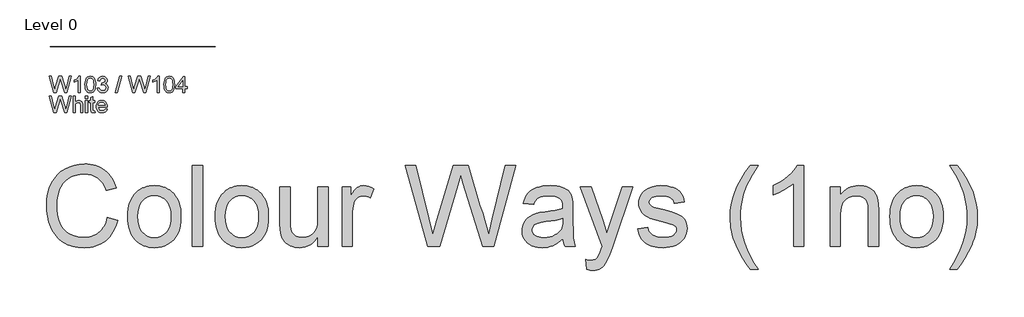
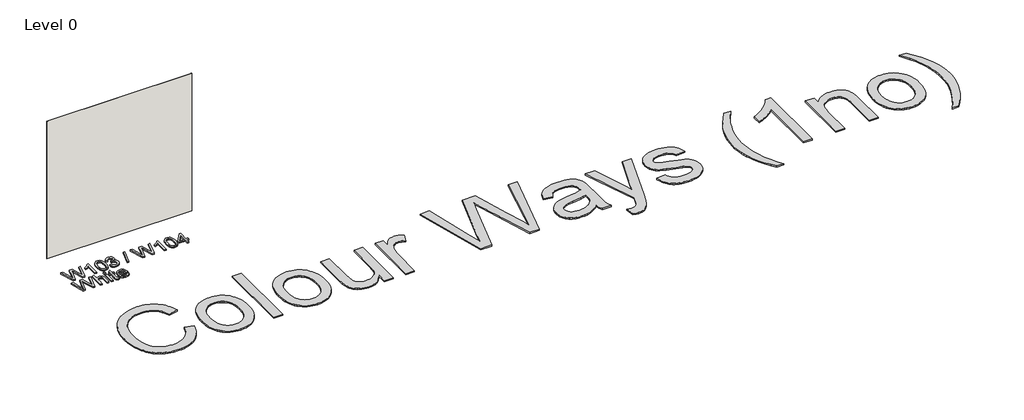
# One storey, part 1 of 6: 2 proxies, 1 wall.
"""IFC4 building model written with IfcOpenShell, lengths in millimetres."""

from ifc_helpers import new_model, si_unit, origin, origin_with_axes, place, context, project, spatial, polyline, outline, extrude, element, save

model = new_model("IFC4")

# Units and contexts
model_context = context("Model", 3, world=origin())
ifc_project = project(units=[si_unit("LENGTHUNIT", "METRE", prefix="MILLI")], contexts=[model_context])

# Site, building, storey
site = spatial("IfcSite", under=ifc_project)
building = spatial("IfcBuilding", under=site)
storey = spatial("IfcBuildingStorey", under=building, Name="Level 0", Elevation=0.0)

# Proxies
placement = place(None, origin())
element("IfcBuildingElementProxy", 1, Name="100mm Arial", ObjectType="100mm Arial", at=placement, inside=storey, context=model_context, shape_type="SweptSolid", body=[
    extrude(outline(polyline([(-85490.2134761, 93124.9975086), (-85570.7663607, 93420.382124), (-85532.6894376, 93420.382124), (-85485.9586684, 93226.2475086), (-85471.5355915, 93166.319624), (-85456.1028992, 93219.3244317), (-85397.5452068, 93420.382124), (-85342.6653992, 93420.382124), (-85300.1173222, 93274.6369317), (-85281.8901588, 93220.5503932), (-85268.4586684, 93166.319624), (-85254.4682838, 93224.5167394), (-85207.3048222, 93420.382124), (-85169.2278992, 93420.382124), (-85249.8528992, 93124.9975086), (-85289.3000145, 93124.9975086), (-85360.1173222, 93352.882124), (-85369.9971299, 93384.6850086), (-85381.1028992, 93346.3917394), (-85445.6461684, 93124.9975086), (-85490.2134761, 93124.9975086)])), origin_with_axes(), (0.0, 0.0, 1.0), 25.0),
    extrude(outline(polyline([(-85007.6894376, 93124.9975086), (-85044.6125145, 93124.9975086), (-85044.6125145, 93355.1898163), (-85079.5884761, 93330.2739509), (-85118.4586684, 93311.632124), (-85118.4586684, 93346.5359702), (-85089.4592693, 93362.3112105), (-85064.3360722, 93381.0792394), (-85044.5313847, 93401.0371721), (-85031.4875145, 93420.382124), (-85007.6894376, 93420.382124), (-85007.6894376, 93124.9975086)])), origin_with_axes(), (0.0, 0.0, 1.0), 25.0),
    extrude(outline(polyline([(-84919.9971299, 93270.3100086), (-84917.2837886, 93317.5906577), (-84909.1437645, 93355.2979894), (-84895.6581876, 93384.0089269), (-84876.9081876, 93404.3003932), (-84852.7585482, 93416.3616913), (-84823.074053, 93420.382124), (-84800.3216492, 93418.0023163), (-84779.949053, 93410.8628932), (-84762.9117934, 93399.2433019), (-84750.1653992, 93383.4229894), (-84740.5379953, 93363.5371721), (-84732.8577068, 93339.7210663), (-84727.8276588, 93309.4776769), (-84726.1509761, 93270.3100086), (-84728.8372742, 93223.2997923), (-84736.8961684, 93185.6826048), (-84750.3006155, 93156.944624), (-84769.0235722, 93136.5720278), (-84793.2272982, 93124.4296), (-84823.074053, 93120.382124), (-84843.4105915, 93122.1399365), (-84861.4394376, 93127.413374), (-84877.1605915, 93136.2024365), (-84890.574053, 93148.507124), (-84903.4466492, 93170.7502129), (-84912.6413607, 93198.4650567), (-84918.1581876, 93231.6516553), (-84919.9971299, 93270.3100086)]), holes=[polyline([(-84883.074053, 93270.382124), (-84878.7471299, 93212.3021961), (-84873.3384761, 93192.4366613), (-84865.7663607, 93178.6874125), (-84846.4394376, 93162.6507538), (-84823.074053, 93157.3052009), (-84799.7086684, 93162.6687827), (-84780.3817453, 93178.7595278), (-84772.8096299, 93192.5313127), (-84767.4009761, 93212.3923403), (-84763.074053, 93270.382124), (-84767.2567453, 93327.1549605), (-84772.4851107, 93346.9551408), (-84779.8048222, 93361.0311625), (-84799.0956876, 93377.8520759), (-84823.5067453, 93383.4590471), (-84846.6197261, 93378.5191432), (-84865.1894376, 93363.6994317), (-84873.0139568, 93348.3749125), (-84878.6028992, 93327.7138548), (-84883.074053, 93270.382124)])]), origin_with_axes(), (0.0, 0.0, 1.0), 25.0),
    extrude(outline(polyline([(-84693.8432838, 93203.4590471), (-84656.9202068, 93208.0744317), (-84648.6539809, 93184.8713067), (-84636.5476107, 93169.2042394), (-84620.0061443, 93160.2799605), (-84598.4346299, 93157.3052009), (-84573.1221299, 93161.397749), (-84553.5788607, 93173.6753932), (-84541.0848703, 93191.9927009), (-84536.9202068, 93214.2042394), (-84541.0488126, 93235.288975), (-84553.4346299, 93252.3893355), (-84572.1846299, 93263.7204653), (-84595.4057838, 93267.4975086), (-84621.2952068, 93263.4590471), (-84617.1846299, 93300.382124), (-84611.2711684, 93299.9494317), (-84589.1497742, 93302.5996721), (-84569.3721299, 93310.5503932), (-84555.417803, 93323.9999125), (-84550.7663607, 93343.1465471), (-84554.1377549, 93359.0930615), (-84564.2519376, 93372.0287586), (-84579.6846299, 93380.601475), (-84599.011553, 93383.4590471), (-84618.3745338, 93380.5744317), (-84634.2038607, 93371.9205855), (-84645.7603511, 93357.4975086), (-84652.3048222, 93337.3052009), (-84689.2278992, 93341.9205855), (-84678.3565049, 93375.0756336), (-84659.011553, 93399.8292394), (-84632.5452068, 93415.2439028), (-84600.3096299, 93420.382124), (-84577.0974905, 93417.8490711), (-84555.7783799, 93410.2499125), (-84537.8036203, 93398.2607298), (-84524.6245338, 93382.5576048), (-84516.5385963, 93364.4656577), (-84513.8432838, 93345.3100086), (-84516.4033799, 93327.4614509), (-84524.0836684, 93311.2715471), (-84536.7759761, 93297.4794798), (-84554.3721299, 93286.8244317), (-84531.2591492, 93277.4854894), (-84514.1317453, 93261.5840471), (-84503.5307838, 93239.9854894), (-84499.9971299, 93213.5552009), (-84501.7639568, 93194.8232298), (-84507.0644376, 93177.569624), (-84515.8985722, 93161.7943836), (-84528.2663607, 93147.4975086), (-84543.3339689, 93135.6345278), (-84560.2675626, 93127.1609702), (-84579.0671419, 93122.0768355), (-84599.7327068, 93120.382124), (-84635.4298222, 93126.1693836), (-84650.7903992, 93133.4034581), (-84664.4923222, 93143.5311625), (-84675.9812044, 93155.9575447), (-84684.7026588, 93170.0876528), (-84693.8432838, 93203.4590471)])), origin_with_axes(), (0.0, 0.0, 1.0), 25.0),
    extrude(outline(polyline([(-84370.7663607, 93124.9975086), (-84287.6894376, 93420.382124), (-84254.3721299, 93420.382124), (-84337.449053, 93124.9975086), (-84370.7663607, 93124.9975086)])), origin_with_axes(), (0.0, 0.0, 1.0), 25.0),
    extrude(outline(polyline([(-84054.8288607, 93124.9975086), (-84135.3817453, 93420.382124), (-84097.3048222, 93420.382124), (-84050.574053, 93226.2475086), (-84036.1509761, 93166.319624), (-84020.7182838, 93219.3244317), (-83962.1605915, 93420.382124), (-83907.2807838, 93420.382124), (-83864.7327068, 93274.6369317), (-83846.5055434, 93220.5503932), (-83833.074053, 93166.319624), (-83819.0836684, 93224.5167394), (-83771.9202068, 93420.382124), (-83733.8432838, 93420.382124), (-83814.4682838, 93124.9975086), (-83853.9153992, 93124.9975086), (-83924.7327068, 93352.882124), (-83934.6125145, 93384.6850086), (-83945.7182838, 93346.3917394), (-84010.261553, 93124.9975086), (-84054.8288607, 93124.9975086)])), origin_with_axes(), (0.0, 0.0, 1.0), 25.0),
    extrude(outline(polyline([(-83572.3048222, 93124.9975086), (-83609.2278992, 93124.9975086), (-83609.2278992, 93355.1898163), (-83644.2038607, 93330.2739509), (-83683.074053, 93311.632124), (-83683.074053, 93346.5359702), (-83654.074654, 93362.3112105), (-83628.9514568, 93381.0792394), (-83609.1467693, 93401.0371721), (-83596.1028992, 93420.382124), (-83572.3048222, 93420.382124), (-83572.3048222, 93124.9975086)])), origin_with_axes(), (0.0, 0.0, 1.0), 25.0),
    extrude(outline(polyline([(-83484.6125145, 93270.3100086), (-83481.8991732, 93317.5906577), (-83473.7591492, 93355.2979894), (-83460.2735722, 93384.0089269), (-83441.5235722, 93404.3003932), (-83417.3739328, 93416.3616913), (-83387.6894376, 93420.382124), (-83364.9370338, 93418.0023163), (-83344.5644376, 93410.8628932), (-83327.527178, 93399.2433019), (-83314.7807838, 93383.4229894), (-83305.1533799, 93363.5371721), (-83297.4730915, 93339.7210663), (-83292.4430434, 93309.4776769), (-83290.7663607, 93270.3100086), (-83293.4526588, 93223.2997923), (-83301.511553, 93185.6826048), (-83314.9160001, 93156.944624), (-83333.6389568, 93136.5720278), (-83357.8426828, 93124.4296), (-83387.6894376, 93120.382124), (-83408.0259761, 93122.1399365), (-83426.0548222, 93127.413374), (-83441.7759761, 93136.2024365), (-83455.1894376, 93148.507124), (-83468.0620338, 93170.7502129), (-83477.2567453, 93198.4650567), (-83482.7735722, 93231.6516553), (-83484.6125145, 93270.3100086)]), holes=[polyline([(-83447.6894376, 93270.382124), (-83443.3625145, 93212.3021961), (-83437.9538607, 93192.4366613), (-83430.3817453, 93178.6874125), (-83411.0548222, 93162.6507538), (-83387.6894376, 93157.3052009), (-83364.324053, 93162.6687827), (-83344.9971299, 93178.7595278), (-83337.4250145, 93192.5313127), (-83332.0163607, 93212.3923403), (-83327.6894376, 93270.382124), (-83331.8721299, 93327.1549605), (-83337.1004953, 93346.9551408), (-83344.4202068, 93361.0311625), (-83363.7110722, 93377.8520759), (-83388.1221299, 93383.4590471), (-83411.2351107, 93378.5191432), (-83429.8048222, 93363.6994317), (-83437.6293415, 93348.3749125), (-83443.2182838, 93327.7138548), (-83447.6894376, 93270.382124)])]), origin_with_axes(), (0.0, 0.0, 1.0), 25.0),
    extrude(outline(polyline([(-83138.4586684, 93124.9975086), (-83138.4586684, 93194.2282778), (-83272.3048222, 93194.2282778), (-83272.3048222, 93231.1513548), (-83129.2278992, 93415.7667394), (-83101.5355915, 93415.7667394), (-83101.5355915, 93231.1513548), (-83064.6125145, 93231.1513548), (-83064.6125145, 93194.2282778), (-83101.5355915, 93194.2282778), (-83101.5355915, 93124.9975086), (-83138.4586684, 93124.9975086)]), holes=[polyline([(-83138.4586684, 93231.1513548), (-83138.4586684, 93345.2378932), (-83226.8721299, 93231.1513548), (-83138.4586684, 93231.1513548)])]), origin_with_axes(), (0.0, 0.0, 1.0), 25.0),
    extrude(outline(polyline([(-85490.2134761, 92760.382124), (-85570.7663607, 93055.7667394), (-85532.6894376, 93055.7667394), (-85485.9586684, 92861.632124), (-85471.5355915, 92801.7042394), (-85456.1028992, 92854.7090471), (-85397.5452068, 93055.7667394), (-85342.6653992, 93055.7667394), (-85300.1173222, 92910.0215471), (-85281.8901588, 92855.9350086), (-85268.4586684, 92801.7042394), (-85254.4682838, 92859.9013548), (-85207.3048222, 93055.7667394), (-85169.2278992, 93055.7667394), (-85249.8528992, 92760.382124), (-85289.3000145, 92760.382124), (-85360.1173222, 92988.2667394), (-85369.9971299, 93020.069624), (-85381.1028992, 92981.7763548), (-85445.6461684, 92760.382124), (-85490.2134761, 92760.382124)])), origin_with_axes(), (0.0, 0.0, 1.0), 25.0),
    extrude(outline(polyline([(-85136.9202068, 92760.382124), (-85136.9202068, 93055.7667394), (-85099.9971299, 93055.7667394), (-85099.9971299, 92947.1609702), (-85086.4349304, 92962.3683019), (-85071.2050626, 92973.2306817), (-85054.3075266, 92979.7481096), (-85035.7423222, 92981.9205855), (-85013.4406395, 92979.5497923), (-84994.2759761, 92972.4374125), (-84979.1858318, 92961.1423403), (-84969.1077068, 92946.2234702), (-84963.4286203, 92925.7246721), (-84961.5355915, 92897.6898163), (-84961.5355915, 92760.382124), (-84998.4586684, 92760.382124), (-84998.4586684, 92893.8677009), (-85001.3973703, 92916.9806817), (-85010.2134761, 92932.8100086), (-85024.4202068, 92941.9506336), (-85043.5307838, 92944.9975086), (-85059.1347501, 92942.9422202), (-85073.7831876, 92936.7763548), (-85085.9166011, 92927.0948644), (-85093.9754953, 92914.4927009), (-85098.4917213, 92897.7439028), (-85099.9971299, 92875.6225086), (-85099.9971299, 92760.382124), (-85136.9202068, 92760.382124)])), origin_with_axes(), (0.0, 0.0, 1.0), 25.0),
    extrude(outline(polyline([(-84910.7663607, 92760.382124), (-84910.7663607, 92977.3052009), (-84873.8432838, 92977.3052009), (-84873.8432838, 92760.382124), (-84910.7663607, 92760.382124)])), origin_with_axes(), (0.0, 0.0, 1.0), 25.0),
    extrude(outline(polyline([(-84910.7663607, 93018.8436625), (-84910.7663607, 93055.7667394), (-84873.8432838, 93055.7667394), (-84873.8432838, 93018.8436625), (-84910.7663607, 93018.8436625)])), origin_with_axes(), (0.0, 0.0, 1.0), 25.0),
    extrude(outline(polyline([(-84739.9971299, 92791.1753932), (-84735.3817453, 92759.3003932), (-84763.0019376, 92755.7667394), (-84780.7242934, 92757.2991913), (-84793.9394376, 92761.8965471), (-84803.2783799, 92768.9818836), (-84809.3721299, 92777.9782778), (-84812.7254953, 92793.428999), (-84813.8432838, 92819.8773163), (-84813.8432838, 92940.382124), (-84841.5355915, 92940.382124), (-84841.5355915, 92977.3052009), (-84813.8432838, 92977.3052009), (-84813.8432838, 93030.0215471), (-84776.9202068, 93051.7282778), (-84776.9202068, 92977.3052009), (-84739.9971299, 92977.3052009), (-84739.9971299, 92940.382124), (-84776.9202068, 92940.382124), (-84776.9202068, 92820.9590471), (-84774.9730915, 92801.9205855), (-84768.6629953, 92795.1777971), (-84756.0788607, 92792.6898163), (-84739.9971299, 92791.1753932)])), origin_with_axes(), (0.0, 0.0, 1.0), 25.0),
    extrude(outline(polyline([(-84551.199053, 92824.9975086), (-84514.9971299, 92820.382124), (-84528.0410001, 92793.1044798), (-84548.855303, 92772.7138548), (-84576.9712886, 92760.0035182), (-84611.9202068, 92755.7667394), (-84634.8303631, 92757.5944137), (-84655.2435242, 92763.0774365), (-84673.15969, 92772.2158079), (-84688.5788607, 92785.0095278), (-84700.9781996, 92801.1025266), (-84709.8348703, 92820.1387346), (-84715.1488727, 92842.1181516), (-84716.9202068, 92867.0407778), (-84715.1308439, 92892.8085062), (-84709.7627549, 92915.5203452), (-84700.81594, 92935.1762947), (-84688.2903992, 92951.7763548), (-84672.9117934, 92964.9644557), (-84655.4057838, 92974.3845278), (-84635.7723703, 92980.0365711), (-84614.011553, 92981.9205855), (-84592.9516071, 92980.0410783), (-84573.9063847, 92974.4025567), (-84556.8758859, 92965.0050206), (-84541.8601107, 92951.8484702), (-84529.6027489, 92935.2844678), (-84520.8474905, 92915.6645759), (-84515.5943355, 92892.9887947), (-84513.8432838, 92867.257124), (-84514.0596299, 92857.3052009), (-84679.9971299, 92857.3052009), (-84673.605904, 92829.6669798), (-84658.7591492, 92809.3484702), (-84637.3318655, 92796.8544798), (-84611.199053, 92792.6898163), (-84591.5476107, 92794.6189028), (-84574.9971299, 92800.4061625), (-84561.5476107, 92810.4121721), (-84551.199053, 92824.9975086)]), holes=[polyline([(-84679.9971299, 92894.2282778), (-84550.7663607, 92894.2282778), (-84555.7603511, 92913.7354894), (-84565.5500145, 92927.6898163), (-84587.0764568, 92940.6705855), (-84614.1557838, 92944.9975086), (-84639.0446059, 92941.5449846), (-84659.6245338, 92931.1874125), (-84673.9304232, 92915.0425807), (-84679.9971299, 92894.2282778)])]), origin_with_axes(), (0.0, 0.0, 1.0), 25.0),
])
element("IfcBuildingElementProxy", 2, Name="600mm Arial", ObjectType="600mm Arial", at=placement, inside=storey, context=model_context, shape_type="SweptSolid", body=[
    extrude(outline(polyline([(-84511.637695, 90847.6341991), (-84327.1600831, 90800.0735647), (-84343.897508, 90740.9014474), (-84363.6637707, 90685.3492979), (-84386.4588711, 90633.4171162), (-84412.2828093, 90585.1049022), (-84441.1355852, 90540.412656), (-84473.0171989, 90499.3403777), (-84507.9276503, 90461.8880671), (-84545.8669394, 90428.0557243), (-84586.4240902, 90398.0347628), (-84629.1881265, 90372.0165962), (-84674.1590482, 90350.0012244), (-84721.3368555, 90331.9886475), (-84770.7215482, 90317.9788655), (-84822.3131265, 90307.9718784), (-84876.1115902, 90301.9676861), (-84932.1169394, 90299.9662886), (-85044.6118015, 90306.0239641), (-85096.729767, 90313.5960585), (-85146.0947554, 90324.1969906), (-85192.7067668, 90337.8267604), (-85236.5658011, 90354.485368), (-85277.6718583, 90374.1728134), (-85316.0249385, 90396.8890965), (-85351.8980874, 90422.4765826), (-85385.5643508, 90450.7776372), (-85417.0237287, 90481.7922601), (-85446.2762211, 90515.5204514), (-85473.3218281, 90551.9622111), (-85498.1605495, 90591.1175392), (-85520.7923854, 90632.9864357), (-85541.2173359, 90677.5689006), (-85575.0299743, 90771.1363417), (-85599.181859, 90868.0816688), (-85613.6729897, 90968.4048818), (-85618.5033667, 91072.1059808), (-85613.042451, 91183.3735443), (-85596.6597041, 91287.2998357), (-85569.3551259, 91383.884855), (-85551.6071501, 91429.4243875), (-85531.1287165, 91473.1286021), (-85508.1337578, 91514.628746), (-85482.8362068, 91553.5560668), (-85455.2360636, 91589.9105644), (-85425.3333282, 91623.692239), (-85393.1280004, 91654.9010903), (-85358.6200805, 91683.5371186), (-85321.8095682, 91709.6003236), (-85282.6964637, 91733.0907056), (-85200.1409308, 91771.9476538), (-85113.5319348, 91799.7026167), (-85022.8694756, 91816.3555945), (-84928.1535532, 91821.9065871), (-84874.3016063, 91820.1106778), (-84822.6396554, 91814.7229497), (-84773.1677006, 91805.7434028), (-84725.8857419, 91793.1720372), (-84680.7937792, 91777.0088529), (-84637.8918126, 91757.2538498), (-84597.1798421, 91733.907028), (-84558.6578676, 91706.9683875), (-84522.6524182, 91676.770087), (-84489.4900227, 91643.6442854), (-84459.1706813, 91607.5909825), (-84431.6943939, 91568.6101785), (-84407.0611606, 91526.7018734), (-84385.2709812, 91481.8660671), (-84366.3238559, 91434.1027596), (-84350.2197846, 91383.4119509), (-84534.6973965, 91339.454395), (-84563.7472158, 91412.0001258), (-84598.6520374, 91473.9843332), (-84639.4118613, 91525.4070171), (-84686.0266876, 91566.2681776), (-84738.766747, 91597.4010266), (-84797.9022706, 91619.6387758), (-84863.4332582, 91632.9814253), (-84935.3597099, 91637.4289752), (-85018.117916, 91632.4972617), (-85093.8050807, 91617.7021212), (-85162.4212042, 91593.0435537), (-85223.9662864, 91558.5215591), (-85277.6634136, 91515.6899652), (-85322.7356719, 91466.1025993), (-85359.1830614, 91409.7594614), (-85387.0055821, 91346.6605517), (-85407.5769076, 91279.6658135), (-85422.2707116, 91211.6351902), (-85431.0869939, 91142.5686819), (-85434.0257547, 91072.4662886), (-85430.5465322, 90984.3710228), (-85420.1088646, 90902.0406823), (-85402.7127519, 90825.4752672), (-85378.3581941, 90754.6747774), (-85346.6511045, 90691.0466655), (-85307.1973965, 90635.998384), (-85259.99707, 90589.5299328), (-85205.0501251, 90551.6413119), (-85145.0250915, 90522.2424445), (-85082.5904994, 90501.2432534), (-85017.7463485, 90488.6437388), (-84950.492639, 90484.4439006), (-84870.2903667, 90490.1637875), (-84796.5060777, 90507.3234481), (-84762.020677, 90520.1931936), (-84729.139772, 90535.9228826), (-84697.8633629, 90554.512515), (-84668.1914497, 90575.9620909), (-84640.4843401, 90600.2265717), (-84615.102342, 90627.260919), (-84592.0454554, 90657.0651328), (-84571.3136803, 90689.6392131), (-84552.9070167, 90724.9831598), (-84536.8254647, 90763.0969731), (-84511.637695, 90847.6341991)])), origin_with_axes(), (0.0, 0.0, 1.0), 25.0),
    extrude(outline(polyline([(-84142.6824711, 90864.9289752), (-84140.1884653, 90937.5366339), (-84132.7064479, 91005.2913965), (-84120.2364189, 91068.1932629), (-84102.7783783, 91126.2422331), (-84080.3323261, 91179.4383072), (-84052.8982623, 91227.7814851), (-84020.4761869, 91271.2717668), (-83983.0660999, 91309.9091524), (-83948.8255958, 91338.0300531), (-83912.7610334, 91362.4015003), (-83874.8724125, 91383.0234941), (-83835.1597333, 91399.8960344), (-83793.6229956, 91413.0191214), (-83750.2621994, 91422.3927549), (-83705.0773449, 91428.016935), (-83658.068432, 91429.8916618), (-83605.9617261, 91427.6087738), (-83556.292728, 91420.76011), (-83509.0614375, 91409.3456704), (-83464.2678548, 91393.3654549), (-83421.9119797, 91372.8194635), (-83381.9938124, 91347.7076963), (-83344.5133527, 91318.0301533), (-83309.4706008, 91283.7868343), (-83277.7606963, 91245.5182013), (-83250.2787791, 91203.7647159), (-83227.0248492, 91158.5263782), (-83207.9989065, 91109.8031881), (-83193.2009511, 91057.5951457), (-83182.630983, 91001.9022509), (-83176.2890021, 90942.7245038), (-83174.1750084, 90880.0619043), (-83177.9132022, 90781.315038), (-83189.1277836, 90693.6926762), (-83207.8187526, 90617.1948188), (-83233.9861092, 90551.8214659), (-83267.3033244, 90495.3544722), (-83307.4438692, 90445.5756928), (-83354.4077437, 90402.4851275), (-83408.1949478, 90366.0827765), (-83466.7111923, 90337.1568131), (-83527.8621878, 90316.4954106), (-83591.6479343, 90304.0985691), (-83658.068432, 90299.9662886), (-83710.9970901, 90302.2407318), (-83761.3304058, 90309.0640615), (-83809.0683791, 90320.4362775), (-83854.2110101, 90336.35738), (-83896.7582987, 90356.827369), (-83936.7102449, 90381.8462443), (-83974.0668487, 90411.4140061), (-84008.8281101, 90445.5306543), (-84040.200226, 90483.925958), (-84067.3893931, 90526.3296865), (-84090.3956114, 90572.7418396), (-84109.2188809, 90623.1624174), (-84123.8592016, 90677.5914198), (-84134.3165736, 90736.0288469), (-84140.5909967, 90798.4746987), (-84142.6824711, 90864.9289752)]), holes=[polyline([(-83958.2048592, 90865.289283), (-83952.8677994, 90775.8090839), (-83946.1964746, 90735.5700174), (-83936.8566199, 90698.3316396), (-83924.8482353, 90664.0939505), (-83910.1713208, 90632.8569501), (-83892.8258764, 90604.6206383), (-83872.8119021, 90579.3850153), (-83827.3680763, 90537.8482776), (-83802.585653, 90521.5302735), (-83776.429556, 90508.1791792), (-83748.8997854, 90497.7949948), (-83719.9963412, 90490.3777202), (-83658.068432, 90484.4439006), (-83596.455792, 90490.4114991), (-83567.6762036, 90497.8709973), (-83540.2477696, 90508.3142947), (-83514.17049, 90521.7413914), (-83489.4443648, 90538.1522873), (-83444.0455775, 90579.9254771), (-83424.0316032, 90605.3609583), (-83406.6861588, 90633.926614), (-83392.0092443, 90665.6224439), (-83380.0008597, 90700.4484481), (-83370.661005, 90738.4046267), (-83363.9896802, 90779.4909796), (-83358.6526204, 90871.0542084), (-83364.0234591, 90957.6969833), (-83370.7370074, 90996.8213474), (-83380.1359751, 91033.147696), (-83392.2203621, 91066.6760291), (-83406.9901685, 91097.4063466), (-83424.4453942, 91125.3386486), (-83444.5860392, 91150.4729351), (-83490.1537208, 91192.0096728), (-83514.8882908, 91208.3276769), (-83540.9233468, 91221.6787711), (-83568.258889, 91232.0629556), (-83596.8949172, 91239.4802301), (-83658.068432, 91245.4140498), (-83719.9963412, 91239.5027494), (-83748.8997854, 91232.1136238), (-83776.429556, 91221.7688481), (-83802.585653, 91208.4684221), (-83827.3680763, 91192.2123459), (-83872.8119021, 91150.8332429), (-83892.8258764, 91125.682067), (-83910.1713208, 91097.5189428), (-83924.8482353, 91066.3438703), (-83936.8566199, 91032.1568495), (-83946.1964746, 90994.9578803), (-83952.8677994, 90954.7469629), (-83958.2048592, 90865.289283)])]), origin_with_axes(), (0.0, 0.0, 1.0), 25.0),
    extrude(outline(polyline([(-82966.637695, 90323.0259901), (-82966.637695, 91798.8468856), (-82782.1600831, 91798.8468856), (-82782.1600831, 90323.0259901), (-82966.637695, 90323.0259901)])), origin_with_axes(), (0.0, 0.0, 1.0), 25.0),
    extrude(outline(polyline([(-82551.5630681, 90864.9289752), (-82549.0690623, 90937.5366339), (-82541.5870449, 91005.2913965), (-82529.1170159, 91068.1932629), (-82511.6589753, 91126.2422331), (-82489.2129231, 91179.4383072), (-82461.7788593, 91227.7814851), (-82429.3567839, 91271.2717668), (-82391.9466969, 91309.9091524), (-82357.7061929, 91338.0300531), (-82321.6416304, 91362.4015003), (-82283.7530096, 91383.0234941), (-82244.0403303, 91399.8960344), (-82202.5035926, 91413.0191214), (-82159.1427965, 91422.3927549), (-82113.9579419, 91428.016935), (-82066.949029, 91429.8916618), (-82014.8423231, 91427.6087738), (-81965.173325, 91420.76011), (-81917.9420345, 91409.3456704), (-81873.1484518, 91393.3654549), (-81830.7925767, 91372.8194635), (-81790.8744094, 91347.7076963), (-81753.3939498, 91318.0301533), (-81718.3511978, 91283.7868343), (-81686.6412934, 91245.5182013), (-81659.1593762, 91203.7647159), (-81635.9054462, 91158.5263782), (-81616.8795035, 91109.8031881), (-81602.0815481, 91057.5951457), (-81591.51158, 91001.9022509), (-81585.1695991, 90942.7245038), (-81583.0556055, 90880.0619043), (-81586.7937993, 90781.315038), (-81598.0083806, 90693.6926762), (-81616.6993496, 90617.1948188), (-81642.8667062, 90551.8214659), (-81676.1839214, 90495.3544722), (-81716.3244662, 90445.5756928), (-81763.2883407, 90402.4851275), (-81817.0755448, 90366.0827765), (-81875.5917893, 90337.1568131), (-81936.7427848, 90316.4954106), (-82000.5285314, 90304.0985691), (-82066.949029, 90299.9662886), (-82119.8776871, 90302.2407318), (-82170.2110028, 90309.0640615), (-82217.9489761, 90320.4362775), (-82263.0916071, 90336.35738), (-82305.6388957, 90356.827369), (-82345.5908419, 90381.8462443), (-82382.9474457, 90411.4140061), (-82417.7087071, 90445.5306543), (-82449.080823, 90483.925958), (-82476.2699901, 90526.3296865), (-82499.2762084, 90572.7418396), (-82518.0994779, 90623.1624174), (-82532.7397986, 90677.5914198), (-82543.1971706, 90736.0288469), (-82549.4715938, 90798.4746987), (-82551.5630681, 90864.9289752)]), holes=[polyline([(-82367.0854562, 90865.289283), (-82361.7483964, 90775.8090839), (-82355.0770716, 90735.5700174), (-82345.7372169, 90698.3316396), (-82333.7288323, 90664.0939505), (-82319.0519178, 90632.8569501), (-82301.7064734, 90604.6206383), (-82281.6924991, 90579.3850153), (-82236.2486733, 90537.8482776), (-82211.46625, 90521.5302735), (-82185.310153, 90508.1791792), (-82157.7803825, 90497.7949948), (-82128.8769383, 90490.3777202), (-82066.949029, 90484.4439006), (-82005.336389, 90490.4114991), (-81976.5568007, 90497.8709973), (-81949.1283667, 90508.3142947), (-81923.051087, 90521.7413914), (-81898.3249618, 90538.1522873), (-81852.9261745, 90579.9254771), (-81832.9122002, 90605.3609583), (-81815.5667558, 90633.926614), (-81800.8898413, 90665.6224439), (-81788.8814567, 90700.4484481), (-81779.541602, 90738.4046267), (-81772.8702772, 90779.4909796), (-81767.5332174, 90871.0542084), (-81772.9040561, 90957.6969833), (-81779.6176044, 90996.8213474), (-81789.0165721, 91033.147696), (-81801.1009591, 91066.6760291), (-81815.8707655, 91097.4063466), (-81833.3259912, 91125.3386486), (-81853.4666362, 91150.4729351), (-81899.0343179, 91192.0096728), (-81923.7688878, 91208.3276769), (-81949.8039438, 91221.6787711), (-81977.139486, 91232.0629556), (-82005.7755142, 91239.4802301), (-82066.949029, 91245.4140498), (-82128.8769383, 91239.5027494), (-82157.7803825, 91232.1136238), (-82185.310153, 91221.7688481), (-82211.46625, 91208.4684221), (-82236.2486733, 91192.2123459), (-82281.6924991, 91150.8332429), (-82301.7064734, 91125.682067), (-82319.0519178, 91097.5189428), (-82333.7288323, 91066.3438703), (-82345.7372169, 91032.1568495), (-82355.0770716, 90994.9578803), (-82361.7483964, 90954.7469629), (-82367.0854562, 90865.289283)])]), origin_with_axes(), (0.0, 0.0, 1.0), 25.0),
    extrude(outline(polyline([(-80683.7272473, 90323.0259901), (-80683.7272473, 90509.3051412), (-80715.7270869, 90460.2413477), (-80750.4742738, 90417.7193932), (-80787.968808, 90381.7392779), (-80828.2106894, 90352.3010018), (-80871.1999181, 90329.4045648), (-80916.936494, 90313.0499669), (-80965.4204171, 90303.2372082), (-81016.6516876, 90299.9662886), (-81062.3544846, 90302.2632511), (-81106.5034541, 90309.1541384), (-81149.0985961, 90320.6389507), (-81190.1399105, 90336.7176879), (-81227.8145986, 90356.264388), (-81260.3098615, 90378.153089), (-81287.6256993, 90402.383791), (-81309.762112, 90428.9564938), (-81327.8563211, 90458.2540247), (-81343.0455483, 90490.6592107), (-81355.3297936, 90526.1720518), (-81364.709057, 90564.792548), (-81372.8159833, 90634.6922681), (-81375.518292, 90736.2990778), (-81375.518292, 91406.8319603), (-81191.0406801, 91406.8319603), (-81191.0406801, 90823.1332662), (-81188.2482944, 90706.3935274), (-81179.8711372, 90635.0525759), (-81168.8254501, 90601.8029185), (-81152.9831649, 90572.313974), (-81132.3442817, 90546.5857426), (-81106.9088004, 90524.6182243), (-81077.4423752, 90507.0419576), (-81044.7106603, 90494.4874815), (-81008.7136555, 90486.9547958), (-80969.4513611, 90484.4439006), (-80929.0180661, 90487.0110939), (-80889.8683678, 90494.7126739), (-80852.0022662, 90507.5486405), (-80815.4197612, 90525.5189938), (-80782.1025461, 90547.9143778), (-80754.0323137, 90574.0254362), (-80731.2090642, 90603.8521693), (-80713.6327976, 90637.3945769), (-80700.5491193, 90676.7919868), (-80691.2036348, 90724.1837268), (-80685.5963442, 90779.569797), (-80683.7272473, 90842.9501972), (-80683.7272473, 91406.8319603), (-80499.2496353, 91406.8319603), (-80499.2496353, 90323.0259901), (-80683.7272473, 90323.0259901)])), origin_with_axes(), (0.0, 0.0, 1.0), 25.0),
    extrude(outline(polyline([(-80245.5929189, 90323.0259901), (-80245.5929189, 91406.8319603), (-80084.1750084, 91406.8319603), (-80084.1750084, 91246.4949733), (-80053.7740348, 91297.748763), (-80024.5440616, 91339.454395), (-79996.4850889, 91371.6118693), (-79969.5971167, 91394.221186), (-79942.6641059, 91409.8270192), (-79914.4700178, 91420.9740428), (-79885.0148522, 91427.662257), (-79854.2986092, 91429.8916618), (-79808.539514, 91426.3336219), (-79762.4201111, 91415.6595022), (-79715.9404002, 91397.8693028), (-79669.1003816, 91372.9630237), (-79730.7130215, 91207.5817271), (-79763.1407267, 91224.1333683), (-79795.568432, 91235.9559691), (-79827.9961372, 91243.0495296), (-79860.4238424, 91245.4140498), (-79888.6967479, 91243.1396066), (-79915.5059028, 91236.316277), (-79940.8513071, 91224.9440609), (-79964.7329609, 91209.0229584), (-79986.2500944, 91189.070912), (-80004.5019383, 91165.6058642), (-80019.4884923, 91138.627815), (-80031.2097566, 91108.1367644), (-80044.2934349, 91057.7837443), (-80053.6389194, 91005.0887233), (-80059.2462101, 90950.0517014), (-80061.115307, 90892.6726785), (-80061.115307, 90323.0259901), (-80245.5929189, 90323.0259901)])), origin_with_axes(), (0.0, 0.0, 1.0), 25.0),
    extrude(outline(polyline([(-78690.1439917, 90323.0259901), (-79092.6078443, 91798.8468856), (-78902.365307, 91798.8468856), (-78668.8858293, 90828.8981916), (-78596.8242622, 90529.48238), (-78519.7183853, 90794.3086394), (-78227.1484226, 91798.8468856), (-77952.9541596, 91798.8468856), (-77740.3725364, 91070.6647494), (-77691.8435748, 90935.639388), (-77649.3047309, 90800.4338726), (-77612.7560048, 90665.0482033), (-77582.1973965, 90529.48238), (-77512.2976764, 90820.2508035), (-77276.6563517, 91798.8468856), (-77086.4138144, 91798.8468856), (-77489.2379749, 90323.0259901), (-77686.3263611, 90323.0259901), (-78040.1486558, 91461.5987513), (-78089.5108293, 91620.4945069), (-78144.9982361, 91429.1710461), (-78467.4737491, 90323.0259901), (-78690.1439917, 90323.0259901)])), origin_with_axes(), (0.0, 0.0, 1.0), 25.0),
    extrude(outline(polyline([(-76233.2048592, 90461.3841991), (-76276.9484824, 90420.331625), (-76321.3451635, 90385.8096305), (-76366.3949026, 90357.8182155), (-76412.0976997, 90336.35738), (-76458.9714972, 90320.4362775), (-76507.5342377, 90309.0640615), (-76557.7859212, 90302.2407318), (-76609.7265476, 90299.9662886), (-76691.8654746, 90305.4384639), (-76729.1432611, 90312.278683), (-76763.8932629, 90321.8549896), (-76796.11548, 90334.167384), (-76825.8099125, 90349.2158659), (-76852.9765604, 90367.0004355), (-76877.6154236, 90387.5210927), (-76899.5294587, 90410.1698181), (-76918.5216225, 90434.3385921), (-76934.591915, 90460.0274149), (-76947.7403361, 90487.2362863), (-76957.9668859, 90515.9652064), (-76965.2715642, 90546.2141752), (-76971.115307, 90611.2722588), (-76968.9084215, 90650.3881782), (-76962.287765, 90687.7475969), (-76951.2533375, 90723.350515), (-76935.805139, 90757.1969323), (-76916.7651218, 90788.543714), (-76894.9552382, 90816.6477252), (-76870.375488, 90841.5089659), (-76843.0258713, 90863.127436), (-76781.9987316, 90898.25745), (-76713.8555122, 90923.6591524), (-76647.4687934, 90937.801235), (-76554.2391409, 90951.4028558), (-76452.7674466, 90965.3647844), (-76365.6179889, 90980.5877905), (-76292.7907675, 90997.071874), (-76234.2857827, 91014.8170349), (-76233.2048592, 91055.8921282), (-76236.380072, 91100.6153383), (-76245.9057104, 91138.2224687), (-76261.7817744, 91168.7135193), (-76284.008264, 91192.0884901), (-76322.426087, 91215.4184225), (-76369.2210672, 91232.0826599), (-76424.3932046, 91242.0812023), (-76487.9424991, 91245.4140498), (-76547.0329842, 91243.1959047), (-76597.836389, 91236.5414694), (-76640.3527137, 91225.4507438), (-76674.5819581, 91209.923728), (-76702.7084885, 91188.744383), (-76726.9166712, 91160.6966699), (-76747.2065062, 91125.7805887), (-76763.5779935, 91083.9961394), (-76948.0556055, 91107.0558409), (-76934.0148595, 91160.2012466), (-76916.0332466, 91207.9420349), (-76894.1107667, 91250.2782056), (-76868.2474198, 91287.2097588), (-76837.3285037, 91319.4798293), (-76800.2393158, 91347.8315521), (-76756.9798563, 91372.2649273), (-76707.5501251, 91392.7799547), (-76652.9522283, 91409.0163265), (-76594.1882722, 91420.613735), (-76531.2582568, 91427.5721801), (-76464.162182, 91429.8916618), (-76398.5748962, 91427.8424109), (-76339.4506323, 91421.6946585), (-76286.7893902, 91411.4484044), (-76240.5911698, 91397.1036487), (-76200.4731442, 91379.6624975), (-76166.0524863, 91360.127057), (-76137.329196, 91338.4973273), (-76114.3032734, 91314.7733082), (-76095.6348236, 91288.3694996), (-76079.983952, 91258.7004013), (-76067.3506585, 91225.7660131), (-76057.7349431, 91189.5663353), (-76050.9791712, 91125.7918483), (-76048.7272473, 91028.1484248), (-76048.7272473, 90798.6323334), (-76046.3852463, 90598.706523), (-76039.3592435, 90478.1385134), (-76025.4873918, 90398.915828), (-76002.6078443, 90323.0259901), (-76187.0854562, 90323.0259901), (-76203.4794627, 90353.8323101), (-76216.6306987, 90387.1607849), (-76226.5391642, 90423.0114146), (-76233.2048592, 90461.3841991)]), holes=[polyline([(-76233.2048592, 90830.339423), (-76288.9624968, 90814.373282), (-76357.1507547, 90799.6231799), (-76530.8191316, 90773.7710927), (-76626.5259005, 90759.6290102), (-76689.5347333, 90743.8655424), (-76730.8350189, 90723.4180727), (-76747.4654775, 90710.2893559), (-76761.4161465, 90695.2239845), (-76780.3323079, 90661.4451249), (-76785.0613482, 90643.2720984), (-76786.637695, 90624.2433409), (-76783.203511, 90595.5763487), (-76772.9009588, 90569.3864729), (-76755.7300385, 90545.6737134), (-76731.6907501, 90524.4380703), (-76701.0082859, 90506.9406211), (-76663.9078384, 90494.442443), (-76620.3894076, 90486.9435362), (-76570.4529935, 90484.4439006), (-76519.4694348, 90487.2025074), (-76471.3683387, 90495.478328), (-76426.1497053, 90509.2713624), (-76383.8135346, 90528.5816105), (-76345.620904, 90551.8102062), (-76312.8328909, 90577.3582837), (-76285.4494954, 90605.2258429), (-76263.4707174, 90635.4128838), (-76250.7023085, 90662.4359715), (-76241.5820164, 90695.2239845), (-76236.1098411, 90733.776923), (-76234.2857827, 90778.0947868), (-76233.2048592, 90830.339423)])]), origin_with_axes(), (0.0, 0.0, 1.0), 25.0),
    extrude(outline(polyline([(-75795.0705308, 89907.9513633), (-75818.1302323, 90085.5831263), (-75767.8672892, 90073.4227369), (-75724.450195, 90069.3692737), (-75675.1780985, 90074.4586219), (-75654.6630711, 90080.8203071), (-75636.8953909, 90089.7266664), (-75607.0799175, 90114.0924838), (-75583.2095234, 90146.4751506), (-75562.8521306, 90194.1258619), (-75532.7664264, 90282.3112047), (-75518.3541129, 90326.9893763), (-75910.3690383, 91406.8319603), (-75715.802807, 91406.8319603), (-75507.9051857, 90805.1178744), (-75469.6224781, 90687.65752), (-75435.4833107, 90564.4322401), (-75363.0614357, 90777.0138633), (-75149.398889, 91406.8319603), (-74956.273889, 91406.8319603), (-75333.5161931, 90297.0838259), (-75389.5440616, 90149.5377672), (-75431.5199245, 90056.3981916), (-75455.7731457, 90015.0303482), (-75481.6927906, 89979.5625456), (-75509.2788593, 89949.9947838), (-75538.5313517, 89926.3270629), (-75570.0808066, 89908.1990749), (-75604.5577626, 89895.250512), (-75641.9622199, 89887.4813743), (-75682.2941782, 89884.8916618), (-75735.7098149, 89890.6565871), (-75795.0705308, 89907.9513633)])), origin_with_axes(), (0.0, 0.0, 1.0), 25.0),
    extrude(outline(polyline([(-74872.6824711, 90645.861811), (-74688.2048592, 90668.9215125), (-74677.0578355, 90626.8555727), (-74659.1100015, 90590.0140965), (-74634.361357, 90558.3970839), (-74602.8119021, 90532.0045349), (-74564.3715599, 90511.1967574), (-74518.9502533, 90496.3340591), (-74466.5479824, 90487.4164402), (-74407.1647473, 90484.4439006), (-74347.8490698, 90487.1687286), (-74296.7303956, 90495.3432126), (-74253.8087246, 90508.9673526), (-74219.084057, 90528.0411487), (-74192.2861617, 90550.7855808), (-74173.1448079, 90575.4216291), (-74161.6599956, 90601.9492935), (-74157.8317249, 90630.3685741), (-74161.6825149, 90655.2748532), (-74173.2348848, 90677.3887466), (-74192.4888348, 90696.7102543), (-74219.4443648, 90713.2393763), (-74288.5333923, 90736.6593856), (-74409.3265943, 90765.8443203), (-74577.6804306, 90814.5309167), (-74639.7659745, 90836.2056849), (-74687.1239357, 90856.1014332), (-74724.6972872, 90876.9429896), (-74757.4290022, 90901.455182), (-74785.3190806, 90929.6380106), (-74808.3675224, 90961.4914752), (-74826.4166931, 90996.0585082), (-74839.3089578, 91032.3820419), (-74847.0443167, 91070.4620763), (-74849.6227696, 91110.2986114), (-74847.5509996, 91146.7234817), (-74841.3356894, 91181.7746783), (-74830.9768391, 91215.4522013), (-74816.4744487, 91247.7560508), (-74798.3914992, 91278.0331686), (-74777.2909716, 91305.6304969), (-74753.1728658, 91330.5480357), (-74726.037182, 91352.7857849), (-74675.0986617, 91382.4661429), (-74608.7569814, 91407.372422), (-74532.0564508, 91424.2618518), (-74450.0413797, 91429.8916618), (-74388.0459127, 91427.6284782), (-74329.9687934, 91420.8389274), (-74275.8100219, 91409.5230094), (-74225.569598, 91393.6807243), (-74180.4410416, 91373.9763895), (-74141.6178723, 91351.0743227), (-74109.1000901, 91324.9745238), (-74082.887695, 91295.6769929), (-74061.6295327, 91262.1571046), (-74043.9744487, 91223.3902334), (-74029.9224431, 91179.3763793), (-74019.4735159, 91130.1155424), (-74203.9511278, 91107.0558409), (-74212.744891, 91137.8734204), (-74227.2360217, 91165.1104409), (-74247.4245202, 91188.7669023), (-74273.3103862, 91208.8428045), (-74305.0062162, 91224.8427243), (-74342.6246062, 91236.2712385), (-74386.1655562, 91243.128347), (-74435.6290663, 91245.4140498), (-74493.0080891, 91243.2296836), (-74541.55957, 91236.6765848), (-74581.2835089, 91225.7547535), (-74612.1799058, 91210.4641897), (-74635.3522035, 91192.268644), (-74651.9038447, 91172.631867), (-74661.8348295, 91151.5538586), (-74665.1451577, 91129.0346188), (-74659.6504632, 91100.6603768), (-74643.1663797, 91075.3487513), (-74614.9722916, 91052.7394346), (-74574.3475831, 91034.6339659), (-74415.4518275, 90995.3604118), (-74252.4575702, 90947.1692387), (-74144.6804889, 90908.5262233), (-74106.7580891, 90889.6776197), (-74073.1593834, 90867.0007452), (-74043.8843718, 90840.4956001), (-74018.9330542, 90810.1621841), (-73998.9922674, 90775.955459), (-73984.7488482, 90737.8303861), (-73976.2027968, 90695.7869655), (-73973.3541129, 90649.8251972), (-73976.69822, 90603.6607557), (-73986.7305413, 90558.8474687), (-74003.4510768, 90515.385336), (-74026.8598265, 90473.2743577), (-74056.5739634, 90434.1922171), (-74092.2106603, 90399.8165976), (-74133.7699172, 90370.1474993), (-74181.2517342, 90345.184922), (-74233.3612549, 90325.4017699), (-74288.8036232, 90311.270947), (-74347.5788389, 90302.7924532), (-74409.6869021, 90299.9662886), (-74508.9742301, 90305.4159446), (-74553.9057432, 90312.2280147), (-74595.6958223, 90321.7649127), (-74634.3444675, 90334.0266387), (-74669.8516788, 90349.0131928), (-74702.2174561, 90366.7245748), (-74731.4417995, 90387.1607849), (-74757.8456081, 90410.2767845), (-74781.7497811, 90436.0275351), (-74803.1543184, 90464.4130368), (-74822.0592202, 90495.4332896), (-74838.4644864, 90529.0882933), (-74852.3701169, 90565.3780482), (-74872.6824711, 90645.861811)])), origin_with_axes(), (0.0, 0.0, 1.0), 25.0),
    extrude(outline(polyline([(-72820.3690383, 89907.9513633), (-72894.8401641, 90004.3111901), (-72963.3211722, 90108.5527508), (-73025.8120624, 90220.6760455), (-73082.3128349, 90340.6810741), (-73107.3936382, 90402.9355123), (-73129.1303344, 90465.7529316), (-73147.5229234, 90529.1333318), (-73162.5714054, 90593.0767131), (-73174.2757802, 90657.5830753), (-73182.636048, 90722.6524185), (-73187.6522086, 90788.2847427), (-73189.3242622, 90854.480048), (-73184.324991, 90970.3415364), (-73169.3271773, 91083.7259085), (-73144.3308212, 91194.6331642), (-73109.3359226, 91303.0633035), (-73056.1454784, 91427.4145454), (-72990.2541829, 91551.4955563), (-72911.6620362, 91675.3063364), (-72820.3690383, 91798.8468856), (-72682.0108293, 91798.8468856), (-72790.5535649, 91623.4670466), (-72854.5982827, 91506.6372308), (-72885.809949, 91437.9985881), (-72913.5086139, 91367.918714), (-72937.6942773, 91296.3976086), (-72958.3669394, 91223.4352718), (-72978.7018129, 91131.2640236), (-72993.2267225, 91038.8675829), (-73001.9416683, 90946.2459499), (-73004.8466502, 90853.3991244), (-72999.8023405, 90735.139337), (-72984.6694114, 90616.9020687), (-72959.4478629, 90498.6873197), (-72924.137695, 90380.4950899), (-72878.7389077, 90262.3253794), (-72823.251501, 90144.1781881), (-72757.6754749, 90026.0535161), (-72682.0108293, 89907.9513633), (-72820.3690383, 89907.9513633)])), origin_with_axes(), (0.0, 0.0, 1.0), 25.0),
    extrude(outline(polyline([(-71851.8615756, 90323.0259901), (-72036.3391876, 90323.0259901), (-72036.3391876, 91473.1286021), (-72072.2573749, 91441.9732339), (-72113.3549875, 91410.8403849), (-72211.0884879, 91348.6422448), (-72313.6861442, 91294.2808001), (-72405.2944114, 91255.5026692), (-72405.2944114, 91429.8916618), (-72330.4291989, 91467.4312344), (-72260.405623, 91508.7090008), (-72195.2236835, 91553.7249611), (-72134.8833806, 91602.4791151), (-72081.1862535, 91652.719539), (-72035.9338412, 91702.1943087), (-71999.1261439, 91750.9034242), (-71970.7631614, 91798.8468856), (-71851.8615756, 91798.8468856), (-71851.8615756, 90323.0259901)])), origin_with_axes(), (0.0, 0.0, 1.0), 25.0),
    extrude(outline(polyline([(-71367.6078443, 90323.0259901), (-71367.6078443, 91406.8319603), (-71183.1302323, 91406.8319603), (-71183.1302323, 91255.5026692), (-71152.6954798, 91296.3750893), (-71119.040476, 91331.7978535), (-71082.165221, 91361.7709615), (-71042.0697146, 91386.2944136), (-70998.753957, 91405.3682097), (-70952.217948, 91418.9923497), (-70902.4616878, 91427.1668337), (-70849.4851764, 91429.8916618), (-70803.0617636, 91427.6960359), (-70758.5524863, 91421.1091583), (-70715.9573443, 91410.1310289), (-70675.2763377, 91394.7616478), (-70638.0520344, 91375.8229671), (-70605.8270024, 91354.1369393), (-70578.6012415, 91329.7035642), (-70556.3747519, 91302.5228418), (-70538.1229081, 91272.628551), (-70522.8210847, 91240.0544708), (-70510.4692817, 91204.8006009), (-70501.0674991, 91166.8669416), (-70493.7712654, 91096.8771445), (-70491.3391876, 90988.5145629), (-70491.3391876, 90323.0259901), (-70675.8167995, 90323.0259901), (-70675.8167995, 90963.6533222), (-70681.1313401, 91059.0448217), (-70687.7745158, 91096.4042405), (-70697.0749618, 91126.8727718), (-70709.7420342, 91152.5334455), (-70726.4850889, 91175.4692912), (-70747.304126, 91195.6803089), (-70772.1991456, 91213.1664985), (-70800.3144164, 91227.2748022), (-70830.7942074, 91237.352162), (-70863.6385185, 91243.3985779), (-70898.8473499, 91245.4140498), (-70954.8639587, 91240.8876826), (-71006.8946621, 91227.3085811), (-71054.9394601, 91204.6767451), (-71098.9983527, 91172.9921748), (-71118.716762, 91152.8543447), (-71135.80605, 91128.6517918), (-71150.2662168, 91100.3845161), (-71162.0972624, 91068.0525176), (-71171.2991867, 91031.6557964), (-71177.8719898, 90991.1943524), (-71183.1302323, 90898.0772961), (-71183.1302323, 90323.0259901), (-71367.6078443, 90323.0259901)])), origin_with_axes(), (0.0, 0.0, 1.0), 25.0),
    extrude(outline(polyline([(-70283.8018741, 90864.9289752), (-70281.3078683, 90937.5366339), (-70273.8258509, 91005.2913965), (-70261.3558219, 91068.1932629), (-70243.8977813, 91126.2422331), (-70221.4517291, 91179.4383072), (-70194.0176653, 91227.7814851), (-70161.5955899, 91271.2717668), (-70124.1855028, 91309.9091524), (-70089.9449988, 91338.0300531), (-70053.8804364, 91362.4015003), (-70015.9918155, 91383.0234941), (-69976.2791362, 91399.8960344), (-69934.7423985, 91413.0191214), (-69891.3816024, 91422.3927549), (-69846.1967479, 91428.016935), (-69799.1878349, 91429.8916618), (-69747.0811291, 91427.6087738), (-69697.4121309, 91420.76011), (-69650.1808405, 91409.3456704), (-69605.3872577, 91393.3654549), (-69563.0313827, 91372.8194635), (-69523.1132154, 91347.7076963), (-69485.6327557, 91318.0301533), (-69450.5900038, 91283.7868343), (-69418.8800993, 91245.5182013), (-69391.3981821, 91203.7647159), (-69368.1442522, 91158.5263782), (-69349.1183095, 91109.8031881), (-69334.3203541, 91057.5951457), (-69323.750386, 91001.9022509), (-69317.4084051, 90942.7245038), (-69315.2944114, 90880.0619043), (-69319.0326052, 90781.315038), (-69330.2471866, 90693.6926762), (-69348.9381556, 90617.1948188), (-69375.1055122, 90551.8214659), (-69408.4227274, 90495.3544722), (-69448.5632722, 90445.5756928), (-69495.5271467, 90402.4851275), (-69549.3143508, 90366.0827765), (-69607.8305953, 90337.1568131), (-69668.9815908, 90316.4954106), (-69732.7673373, 90304.0985691), (-69799.1878349, 90299.9662886), (-69852.116493, 90302.2407318), (-69902.4498088, 90309.0640615), (-69950.1877821, 90320.4362775), (-69995.3304131, 90336.35738), (-70037.8777016, 90356.827369), (-70077.8296478, 90381.8462443), (-70115.1862517, 90411.4140061), (-70149.9475131, 90445.5306543), (-70181.319629, 90483.925958), (-70208.5087961, 90526.3296865), (-70231.5150144, 90572.7418396), (-70250.3382839, 90623.1624174), (-70264.9786046, 90677.5914198), (-70275.4359766, 90736.0288469), (-70281.7103997, 90798.4746987), (-70283.8018741, 90864.9289752)]), holes=[polyline([(-70099.3242622, 90865.289283), (-70093.9872024, 90775.8090839), (-70087.3158776, 90735.5700174), (-70077.9760229, 90698.3316396), (-70065.9676383, 90664.0939505), (-70051.2907238, 90632.8569501), (-70033.9452794, 90604.6206383), (-70013.9313051, 90579.3850153), (-69968.4874793, 90537.8482776), (-69943.705056, 90521.5302735), (-69917.548959, 90508.1791792), (-69890.0191884, 90497.7949948), (-69861.1157442, 90490.3777202), (-69799.1878349, 90484.4439006), (-69737.575195, 90490.4114991), (-69708.7956066, 90497.8709973), (-69681.3671726, 90508.3142947), (-69655.289893, 90521.7413914), (-69630.5637678, 90538.1522873), (-69585.1649805, 90579.9254771), (-69565.1510061, 90605.3609583), (-69547.8055617, 90633.926614), (-69533.1286472, 90665.6224439), (-69521.1202626, 90700.4484481), (-69511.780408, 90738.4046267), (-69505.1090832, 90779.4909796), (-69499.7720234, 90871.0542084), (-69505.142862, 90957.6969833), (-69511.8564104, 90996.8213474), (-69521.2553781, 91033.147696), (-69533.3397651, 91066.6760291), (-69548.1095715, 91097.4063466), (-69565.5647972, 91125.3386486), (-69585.7054422, 91150.4729351), (-69631.2731238, 91192.0096728), (-69656.0076938, 91208.3276769), (-69682.0427498, 91221.6787711), (-69709.378292, 91232.0629556), (-69738.0143202, 91239.4802301), (-69799.1878349, 91245.4140498), (-69861.1157442, 91239.5027494), (-69890.0191884, 91232.1136238), (-69917.548959, 91221.7688481), (-69943.705056, 91208.4684221), (-69968.4874793, 91192.2123459), (-70013.9313051, 91150.8332429), (-70033.9452794, 91125.682067), (-70051.2907238, 91097.5189428), (-70065.9676383, 91066.3438703), (-70077.9760229, 91032.1568495), (-70087.3158776, 90994.9578803), (-70093.9872024, 90954.7469629), (-70099.3242622, 90865.289283)])]), origin_with_axes(), (0.0, 0.0, 1.0), 25.0),
    extrude(outline(polyline([(-69061.637695, 89907.9513633), (-69199.995904, 89907.9513633), (-69124.3312584, 90026.0535161), (-69058.7552323, 90144.1781881), (-69003.2678256, 90262.3253794), (-68957.8690383, 90380.4950899), (-68922.5588704, 90498.6873197), (-68897.3373219, 90616.9020687), (-68882.2043928, 90735.139337), (-68877.1600831, 90853.3991244), (-68880.065065, 90945.6379304), (-68888.7800108, 91037.5164285), (-68903.3049204, 91129.0346188), (-68923.6397939, 91220.1925013), (-68943.8395519, 91293.3124727), (-68967.6874268, 91364.9461744), (-68995.1834185, 91435.0936061), (-69026.3275271, 91503.7547681), (-69090.6424758, 91621.8456613), (-69199.995904, 91798.8468856), (-69061.637695, 91798.8468856), (-68970.3446971, 91675.3063364), (-68891.7525504, 91551.4955563), (-68825.8612549, 91427.4145454), (-68772.6708107, 91303.0633035), (-68737.6759121, 91194.6331642), (-68712.679556, 91083.7259085), (-68697.6817424, 90970.3415364), (-68692.6824711, 90854.480048), (-68694.3629694, 90788.2847427), (-68699.4044642, 90722.6524185), (-68707.8069555, 90657.5830753), (-68719.5704434, 90593.0767131), (-68734.6949278, 90529.1333318), (-68753.1804087, 90465.7529316), (-68775.0268861, 90402.9355123), (-68800.2343601, 90340.6810741), (-68856.9040269, 90220.6760455), (-68919.3611383, 90108.5527508), (-68987.6056944, 90004.3111901), (-69061.637695, 89907.9513633)])), origin_with_axes(), (0.0, 0.0, 1.0), 25.0),
])

# Wall
element("IfcWall", 3, ObjectType="Cladding - Altro Whiterock White - W103/W104 - White", at=placement, inside=storey, context=model_context, shape_type="SweptSolid", body=[
    extrude(outline(polyline([(-85554.7613289, 93963.5836244), (-82554.7613289, 93963.5836244), (-82554.7613289, 93961.0836244), (-85554.7613289, 93961.0836244), (-85554.7613289, 93963.5836244)])), origin_with_axes(), (0.0, 0.0, 1.0), 3000.0),
])

save(model, "model.ifc")
